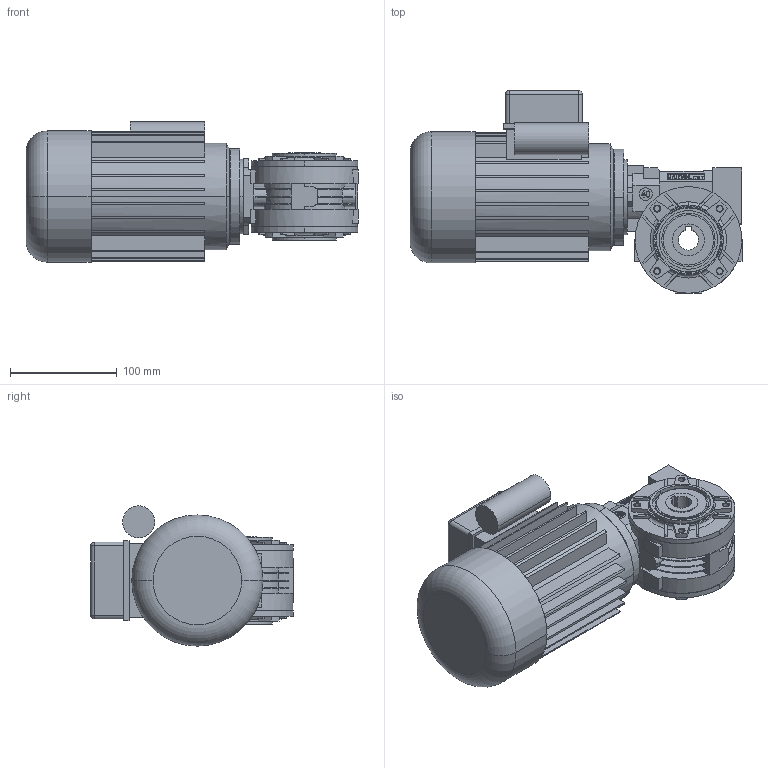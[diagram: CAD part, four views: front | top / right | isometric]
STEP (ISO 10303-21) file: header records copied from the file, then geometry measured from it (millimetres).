
FILE_DESCRIPTION (( 'STEP AP214' ), '1' );
FILE_NAME ('M63B14+RS40.STEP', '2020-04-20T07:21:21', ( '' ), ( '' ), 'SwSTEP 2.0', 'SolidWorks 2018', '' );
FILE_SCHEMA (( 'AUTOMOTIVE_DESIGN' ));
Length unit declared in the file: millimetre
Products named in the file (3): M63B14; M63B14+RS40; RS40
Assembly tree (2 placements, depth 2):
  M63B14+RS40
    RS40
    M63B14
Bounding box: 311.25 x 190 x 131.5 mm (x, y, z)
Volume: 2711203.4 mm3; surface area: 280095.1 mm2
Topology: 3 solids, 4 shells, 869 faces, 2270 edges, 1478 vertices
Faces by surface type: plane 554, cylinder 199, torus 68, cone 44, sphere 4
Entity records: 29376 total; most frequent: CARTESIAN_POINT 7205, ORIENTED_EDGE 4532, DIRECTION 4520, EDGE_CURVE 2266, AXIS2_PLACEMENT_3D 1564, VERTEX_POINT 1478, LINE 1392, VECTOR 1392
